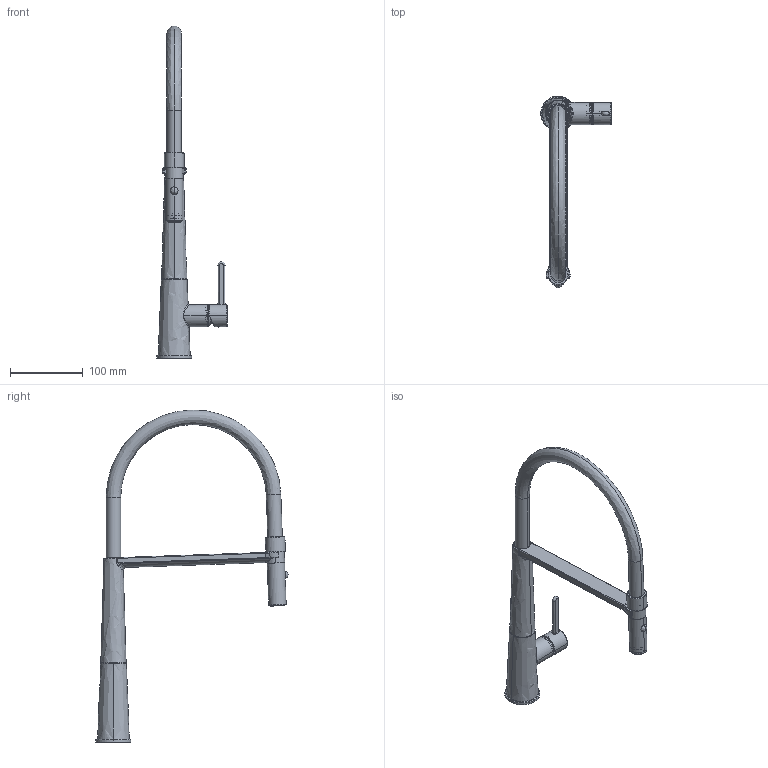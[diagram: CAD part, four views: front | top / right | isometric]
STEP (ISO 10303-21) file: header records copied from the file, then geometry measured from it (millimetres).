
FILE_DESCRIPTION(/* description */ (''),/* implementation_level */ '2;1');
FILE_NAME(/* name */ '3D001_Taps_Icon_Semi-Pro',/* time_stamp */ '2024-01-30T15:23:21+01:00',/* author */ (''),/* organization */ (''),/* preprocessor_version */ 'ST-DEVELOPER v19.2',/* originating_system */ 'Rhino 8.3',/* authorisation */ '');
FILE_SCHEMA (('CONFIG_CONTROL_DESIGN'));
Products named in the file (22): Document; SCP451890; SAC003390_AF8; Blocco 02; SMN602960; SGU150790; SDO083330_ASM; S_PRG_GE07418_0003; S_PRG_GE07418_0002; S_PRG_GE07418_0004; S_PRG_GE07418_0005; SPL350770; SBU051060; SMM256170; SPL350760; SMN602580; SMM254230; SBU050970; SZA602040; Blocco 01; SGU152520; SZA601150
Bounding box: 96.95 x 263.95 x 456.36 mm (x, y, z)
Volume: 310204.6 mm3; surface area: 177496.4 mm2
Topology: 23 solids, 40 shells, 3832 faces, 9696 edges, 5964 vertices
Faces by surface type: plane 2350, cylinder 849, bspline 633
Entity records: 221936 total; most frequent: CARTESIAN_POINT 144946, ORIENTED_EDGE 19062, EDGE_CURVE 9591, DIRECTION 7513, B_SPLINE_CURVE_WITH_KNOTS 7499, VERTEX_POINT 5959, AXIS2_PLACEMENT_3D 5356, EDGE_LOOP 4112
